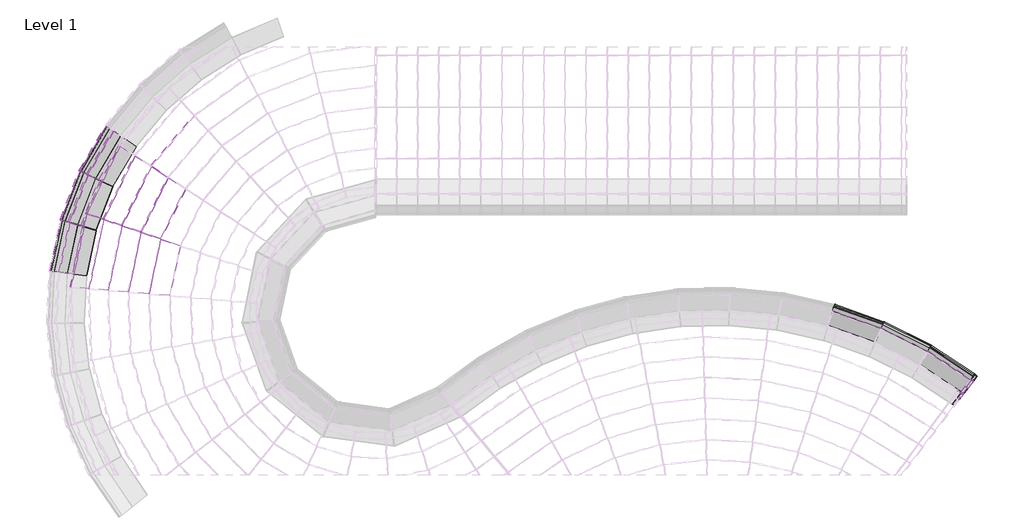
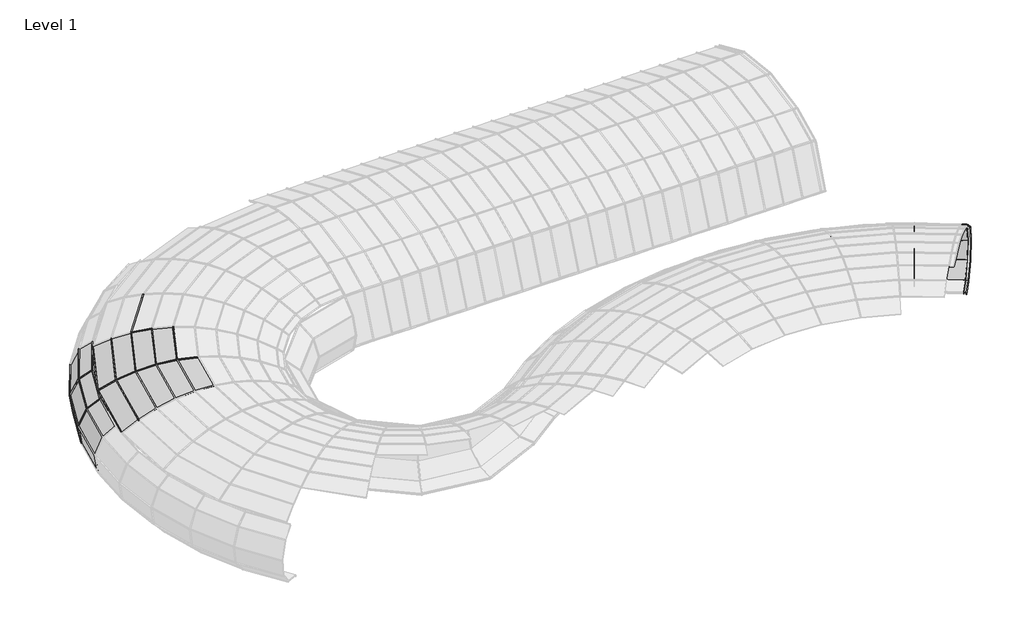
# One storey, part 13 of 23: 68 members, 32 plates.
"""IFC4 building model written with IfcOpenShell, lengths in millimetres."""

from ifc_helpers import new_model, si_unit, origin, place, context, project, spatial, transform, mapped, element, save
from components import member_9f5a8508, member_b171f0c8, member_040a25f9, member_07455e61, member_515abc7c, member_e80ec650, member_68ba998a, member_6834bcaf, member_d79d2994, member_c7dbaffb, member_6c4aaba8, member_0ea93e7c, member_01d9c279, member_12c77cbe, member_af15374c, member_9c203333, member_86c07ba8, member_0e8a41c0, member_f532ae18, member_ff5bcfe9, member_5080b2ef, member_d6b8231b, member_8c9da58c, member_391bee44, member_01ebdf2a, member_e0eebeff, member_95f517b8, member_0cd36c09, member_e4cc2466, member_03fc4885, member_b79de73f, member_10df8ec0, member_13f17b54, system_panel_glazed_dfe8d515, system_panel_glazed_f0cf6c0b, system_panel_glazed_2b57bb89, system_panel_glazed_39caee5c, system_panel_glazed_2fe36e08, system_panel_glazed_8ac96967, system_panel_glazed_5e26bc8e, system_panel_glazed_f7be4813, system_panel_glazed_5b1ce257, system_panel_glazed_7bf4cd1b, system_panel_glazed_a2a57e74, system_panel_glazed_56180ac8, system_panel_glazed_7dd4ad5a, system_panel_glazed_af9ea4cd

model = new_model("IFC4")

# Units and contexts
model_context = context("Model", 3, world=origin())
ifc_project = project(units=[si_unit("LENGTHUNIT", "METRE", prefix="MILLI")], contexts=[model_context])

# Site, building, storey
site = spatial("IfcSite", under=ifc_project)
building = spatial("IfcBuilding", under=site)
storey = spatial("IfcBuildingStorey", under=building, Name="Level 1", Elevation=0.0)

# Members
placement = place(None, origin())
member_shape = member_9f5a8508(model_context)
element("IfcMember", 1, ObjectType="Rectangular Mullion : 1\" Square", at=placement, inside=storey, context=model_context, shape_type="MappedRepresentation", body=[
    mapped(member_shape, transform((7104.8271697, -3677.2258429, 2085.6089632), x_axis=(0.5145511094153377, 0.6881011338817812, -0.5116189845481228), y_axis=(0.3063900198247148, 0.4097305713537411, 0.8592124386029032), z_axis=(0.8008509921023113, -0.5988636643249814, 0.0))),
])
member_2_shape = member_b171f0c8(model_context)
element("IfcMember", 2, ObjectType="Rectangular Mullion : 1\" Square", at=placement, inside=storey, context=model_context, shape_type="MappedRepresentation", body=[
    mapped(member_2_shape, transform((6165.2913851, -2271.3085025, 1116.1918244), x_axis=(0.011808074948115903, 0.023756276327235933, -0.9996480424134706), y_axis=(0.4449428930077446, 0.8951659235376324, 0.026529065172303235), z_axis=(0.8954810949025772, -0.44509954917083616, 0.0))),
])
element("IfcMember", 3, ObjectType="Rectangular Mullion : 1\" Square", at=placement, inside=storey, context=model_context, shape_type="MappedRepresentation", body=[
    mapped(member_2_shape, transform((7440.7683843, -3110.151261, 1116.1918244), x_axis=(0.014599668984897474, 0.02215041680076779, -0.9996480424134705), y_axis=(0.5501336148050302, 0.834655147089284, 0.02652906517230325), z_axis=(0.8349490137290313, -0.5503273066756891, 0.0))),
])
element("IfcMember", 4, ObjectType="Rectangular Mullion : 1\" Square", at=placement, inside=storey, context=model_context, shape_type="MappedRepresentation", body=[
    mapped(member_2_shape, transform((4797.5682661, -1593.1992054, 1116.1918244), x_axis=(0.008842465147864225, 0.025012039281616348, -0.9996480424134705), y_axis=(0.33319504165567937, 0.9424846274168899, 0.02652906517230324), z_axis=(0.9428164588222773, -0.33331235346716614, 0.0))),
])
member_3_shape = member_040a25f9(model_context)
element("IfcMember", 5, ObjectType="Rectangular Mullion : 1\" Square", at=placement, inside=storey, context=model_context, shape_type="MappedRepresentation", body=[
    mapped(member_3_shape, transform((7501.9908279, -3155.3837101, 1116.1918244), x_axis=(0.015953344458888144, 0.021115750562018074, -0.9996497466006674), y_axis=(0.6026032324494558, 0.7976020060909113, 0.026464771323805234), z_axis=(0.7978814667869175, -0.6028143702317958, 0.0))),
])
member_4_shape = member_07455e61(model_context)
element("IfcMember", 6, ObjectType="Rectangular Mullion : 1\" Square", at=placement, inside=storey, context=model_context, shape_type="MappedRepresentation", body=[
    mapped(member_4_shape, transform((4737.0034342, -1736.2291128, 526.7119632), x_axis=(-0.17219439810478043, -0.48707379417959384, -0.8562173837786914), y_axis=(0.28538783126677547, 0.8072558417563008, -0.516615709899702), z_axis=(0.9428164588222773, -0.33331235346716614, 0.0))),
])
element("IfcMember", 7, ObjectType="Rectangular Mullion : 1\" Square", at=placement, inside=storey, context=model_context, shape_type="MappedRepresentation", body=[
    mapped(member_4_shape, transform((6087.8415671, -2405.9457149, 526.7119632), x_axis=(-0.2299454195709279, -0.4626196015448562, -0.8562173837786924), y_axis=(0.38110197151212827, 0.7667264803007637, -0.5166157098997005), z_axis=(0.8954810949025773, -0.44509954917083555, 0.0))),
])
element("IfcMember", 8, ObjectType="Rectangular Mullion : 1\" Square", at=placement, inside=storey, context=model_context, shape_type="MappedRepresentation", body=[
    mapped(member_4_shape, transform((7347.5749593, -3234.4116279, 526.7119632), x_axis=(-0.28430773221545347, -0.43134777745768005, -0.8562173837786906), y_axis=(0.4711998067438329, 0.7148978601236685, -0.5166157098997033), z_axis=(0.8349490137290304, -0.5503273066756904, 0.0))),
])
member_5_shape = member_515abc7c(model_context)
element("IfcMember", 9, ObjectType="Rectangular Mullion : 1\" Square", at=placement, inside=storey, context=model_context, shape_type="MappedRepresentation", body=[
    mapped(member_5_shape, transform((7328.9928638, -3259.1882471, 1696.6281859), x_axis=(0.308871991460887, 0.46861633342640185, -0.8276453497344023), y_axis=(0.45547583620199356, 0.6910416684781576, 0.5612514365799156), z_axis=(0.8349490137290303, -0.5503273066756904, 0.0))),
])
element("IfcMember", 10, ObjectType="Rectangular Mullion : 1\" Square", at=placement, inside=storey, context=model_context, shape_type="MappedRepresentation", body=[
    mapped(member_5_shape, transform((4724.9272444, -1764.7482427, 1696.6281859), x_axis=(0.18707203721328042, 0.5291570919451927, -0.8276453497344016), y_axis=(0.27586441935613, 0.7803176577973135, 0.5612514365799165), z_axis=(0.9428164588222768, -0.33331235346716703, 0.0))),
])
element("IfcMember", 11, ObjectType="Rectangular Mullion : 1\" Square", at=placement, inside=storey, context=model_context, shape_type="MappedRepresentation", body=[
    mapped(member_5_shape, transform((6072.3986331, -2432.7914021, 1696.6281859), x_axis=(0.2498127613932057, 0.5025900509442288, -0.8276453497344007), y_axis=(0.3683845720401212, 0.7411407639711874, 0.5612514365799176), z_axis=(0.895481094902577, -0.44509954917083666, 0.0))),
])
member_6_shape = member_e80ec650(model_context)
element("IfcMember", 12, ObjectType="Rectangular Mullion : 1\" Square", at=placement, inside=storey, context=model_context, shape_type="MappedRepresentation", body=[
    mapped(member_6_shape, transform((7389.1652625, -3303.6273676, 1696.6281859), x_axis=(0.33773694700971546, 0.4470265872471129, -0.8283121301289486), y_axis=(0.4993184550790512, 0.6608948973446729, 0.5602669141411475), z_axis=(0.797881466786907, -0.6028143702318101, 0.0))),
])
member_7_shape = member_68ba998a(model_context)
element("IfcMember", 13, ObjectType="Rectangular Mullion : 1\" Square", at=placement, inside=storey, context=model_context, shape_type="MappedRepresentation", body=[
    mapped(member_7_shape, transform((7407.9219225, -3278.9826351, 526.7119632), x_axis=(-0.3108447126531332, -0.4114321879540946, -0.8567958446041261), y_axis=(0.5164888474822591, 0.6836215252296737, -0.5156557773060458), z_axis=(0.7978814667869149, -0.6028143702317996, 0.0))),
])
member_8_shape = member_6834bcaf(model_context)
element("IfcMember", 14, ObjectType="Rectangular Mullion : 1\" Square", at=placement, inside=storey, context=model_context, shape_type="MappedRepresentation", body=[
    mapped(member_8_shape, transform((7078.7002213, -3592.9183956, 113.4427618), x_axis=(-0.4932424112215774, -0.7483405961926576, -0.44350679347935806), y_axis=(0.24407389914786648, 0.370305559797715, -0.8962710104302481), z_axis=(0.834949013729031, -0.5503273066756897, 0.0))),
])
member_9_shape = member_d79d2994(model_context)
element("IfcMember", 15, ObjectType="Rectangular Mullion : 1\" Square", at=placement, inside=storey, context=model_context, shape_type="MappedRepresentation", body=[
    mapped(member_9_shape, transform((7136.5213134, -3635.5810601, 113.4427618), x_axis=(-0.5399407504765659, -0.714662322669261, -0.4446591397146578), y_axis=(0.268046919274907, 0.3547852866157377, -0.8956998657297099), z_axis=(0.7978814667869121, -0.6028143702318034, 0.0))),
])
member_10_shape = member_c7dbaffb(model_context)
element("IfcMember", 16, ObjectType="Rectangular Mullion : 1\" Square", at=placement, inside=storey, context=model_context, shape_type="MappedRepresentation", body=[
    mapped(member_10_shape, transform((7068.1127197, -3649.3300557, 2085.6089632), x_axis=(-0.4641419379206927, -0.61433547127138, 0.6380941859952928), y_axis=(0.38465234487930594, 0.5091235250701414, 0.7699583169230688), z_axis=(-0.7978814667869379, 0.6028143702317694, 0.0))),
])
member_11_shape = member_6c4aaba8(model_context)
element("IfcMember", 17, ObjectType="Rectangular Mullion : 1\" Square", at=placement, inside=storey, context=model_context, shape_type="MappedRepresentation", body=[
    mapped(member_11_shape, transform((-17803.0523861, 1396.6710383, 2378.3537392), x_axis=(0.8127024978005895, -0.3994620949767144, 0.4241988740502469), y_axis=(-0.38069706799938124, 0.1871214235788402, 0.9055690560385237), z_axis=(-0.4411172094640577, -0.897449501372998, 0.0))),
])
member_12_shape = member_0ea93e7c(model_context)
element("IfcMember", 18, ObjectType="Rectangular Mullion : 1\" Square", at=placement, inside=storey, context=model_context, shape_type="MappedRepresentation", body=[
    mapped(member_12_shape, transform((-16711.9803938, 1019.204499, 2763.3769688), x_axis=(0.8794198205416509, -0.43225520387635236, 0.19943976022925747), y_axis=(-0.17898711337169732, 0.0879763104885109, 0.9799100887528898), z_axis=(-0.44111720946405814, -0.8974495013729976, 0.0))),
])
member_13_shape = member_01d9c279(model_context)
element("IfcMember", 19, ObjectType="Rectangular Mullion : 1\" Square", at=placement, inside=storey, context=model_context, shape_type="MappedRepresentation", body=[
    mapped(member_13_shape, transform((-16141.7523354, 821.9287799, 2850.17796), x_axis=(0.8944127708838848, -0.43962458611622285, 0.08219500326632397), y_axis=(-0.0737658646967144, 0.03625763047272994, 0.9966162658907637), z_axis=(-0.44111720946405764, -0.897449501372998, 0.0))),
])
member_14_shape = member_12c77cbe(model_context)
element("IfcMember", 20, ObjectType="Rectangular Mullion : 1\" Square", at=placement, inside=storey, context=model_context, shape_type="MappedRepresentation", body=[
    mapped(member_14_shape, transform((-16417.3913243, 2935.9848812, 2605.3528615), x_axis=(0.7234762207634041, -0.6148230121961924, 0.31396627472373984), y_axis=(-0.23924475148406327, 0.2033144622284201, 0.9494341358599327), z_axis=(-0.6475678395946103, -0.7620078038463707, 0.0))),
])
element("IfcMember", 21, ObjectType="Rectangular Mullion : 1\" Square", at=placement, inside=storey, context=model_context, shape_type="MappedRepresentation", body=[
    mapped(member_14_shape, transform((-17268.3856096, 1211.6980766, 2605.3528615), x_axis=(0.852069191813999, -0.4188117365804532, 0.31396627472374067), y_axis=(-0.2817688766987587, 0.13849592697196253, 0.9494341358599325), z_axis=(-0.44111720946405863, -0.8974495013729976, 0.0))),
])
member_15_shape = member_af15374c(model_context)
element("IfcMember", 22, ObjectType="Rectangular Mullion : 1\" Square", at=placement, inside=storey, context=model_context, shape_type="MappedRepresentation", body=[
    mapped(member_15_shape, transform((-17351.3458913, 3518.5588606, 2085.6089632), x_axis=(-0.785792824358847, 0.3862353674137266, -0.4830650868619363), y_axis=(-0.43352652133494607, 0.2130883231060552, 0.8755844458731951), z_axis=(0.4411172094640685, 0.8974495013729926, 0.0))),
])
element("IfcMember", 23, ObjectType="Rectangular Mullion : 1\" Square", at=placement, inside=storey, context=model_context, shape_type="MappedRepresentation", body=[
    mapped(member_15_shape, transform((-18316.6152941, 1547.6714435, 2085.6089632), x_axis=(-0.8564765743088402, 0.18192305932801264, -0.4830650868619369), y_axis=(-0.47252316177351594, 0.10036802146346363, 0.8755844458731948), z_axis=(0.20777328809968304, 0.9781770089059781, 0.0))),
])
member_16_shape = member_9c203333(model_context)
element("IfcMember", 24, ObjectType="Rectangular Mullion : 1\" Square", at=placement, inside=storey, context=model_context, shape_type="MappedRepresentation", body=[
    mapped(member_16_shape, transform((-17536.0072528, 2316.0728219, 0.0), x_axis=(0.8949800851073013, -0.3463778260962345, -0.2811281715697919), y_axis=(-0.26217768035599, 0.10146877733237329, -0.9596702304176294), z_axis=(0.36093422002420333, 0.9325912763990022, 0.0))),
])
element("IfcMember", 25, ObjectType="Rectangular Mullion : 1\" Square", at=placement, inside=storey, context=model_context, shape_type="MappedRepresentation", body=[
    mapped(member_16_shape, transform((-18022.6145046, 1053.1513631, 0.0), x_axis=(0.938773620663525, -0.1991759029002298, -0.28112817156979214), y_axis=(-0.2750066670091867, 0.058347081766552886, -0.9596702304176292), z_axis=(0.20754619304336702, 0.9782252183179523, 0.0))),
])
member_17_shape = member_86c07ba8(model_context)
element("IfcMember", 26, ObjectType="Rectangular Mullion : 1\" Square", at=placement, inside=storey, context=model_context, shape_type="MappedRepresentation", body=[
    mapped(member_17_shape, transform((-18052.0771876, 2593.0721676, 170.8694653), x_axis=(-0.7284687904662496, 0.42630674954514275, 0.5362795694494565), y_axis=(-0.46284860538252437, 0.270863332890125, -0.8440404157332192), z_axis=(-0.5050785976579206, -0.8630733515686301, 0.0))),
])
element("IfcMember", 27, ObjectType="Rectangular Mullion : 1\" Square", at=placement, inside=storey, context=model_context, shape_type="MappedRepresentation", body=[
    mapped(member_17_shape, transform((-18576.2627857, 1244.2806281, 170.8694653), x_axis=(-0.7871447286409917, 0.30464306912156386, 0.5362795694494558), y_axis=(-0.5001296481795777, 0.19356164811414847, -0.8440404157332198), z_axis=(-0.36093422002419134, -0.9325912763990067, 0.0))),
])
member_18_shape = member_0e8a41c0(model_context)
element("IfcMember", 28, ObjectType="Rectangular Mullion : 1\" Square", at=placement, inside=storey, context=model_context, shape_type="MappedRepresentation", body=[
    mapped(member_18_shape, transform((-18413.5052303, 2767.3816198, 629.7792003), x_axis=(-0.36445706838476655, 0.2132836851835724, 0.9064662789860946), y_axis=(-0.7823468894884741, 0.45783671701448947, -0.42227820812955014), z_axis=(-0.5050785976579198, -0.8630733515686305, 0.0))),
])
element("IfcMember", 29, ObjectType="Rectangular Mullion : 1\" Square", at=placement, inside=storey, context=model_context, shape_type="MappedRepresentation", body=[
    mapped(member_18_shape, transform((-18960.8683823, 1358.7033102, 629.7792003), x_axis=(-0.3938129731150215, 0.1524146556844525, 0.9064662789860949), y_axis=(-0.8453625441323, 0.32717469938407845, -0.4222782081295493), z_axis=(-0.36093422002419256, -0.9325912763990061, 0.0))),
])
member_19_shape = member_f532ae18(model_context)
element("IfcMember", 30, ObjectType="Rectangular Mullion : 1\" Square", at=placement, inside=storey, context=model_context, shape_type="MappedRepresentation", body=[
    mapped(member_19_shape, transform((-18495.708055, 2807.0263835, 1232.5089476), x_axis=(0.11561769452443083, -0.06766055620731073, 0.9909866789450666), y_axis=(-0.8552941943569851, 0.5005261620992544, 0.13396044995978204), z_axis=(-0.5050785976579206, -0.8630733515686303, 0.0))),
])
element("IfcMember", 31, ObjectType="Rectangular Mullion : 1\" Square", at=placement, inside=storey, context=model_context, shape_type="MappedRepresentation", body=[
    mapped(member_19_shape, transform((-19048.3426862, 1384.7274881, 1232.5089476), x_axis=(0.12493034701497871, -0.04835091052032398, 0.9909866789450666), y_axis=(-0.9241855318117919, 0.3576810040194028, 0.13396044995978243), z_axis=(-0.3609342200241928, -0.9325912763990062, 0.0))),
])
member_20_shape = member_ff5bcfe9(model_context)
element("IfcMember", 32, ObjectType="Rectangular Mullion : 1\" Square", at=placement, inside=storey, context=model_context, shape_type="MappedRepresentation", body=[
    mapped(member_20_shape, transform((-18272.8520137, 2699.5474115, 1789.6405438), x_axis=(0.5587528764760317, -0.3269874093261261, 0.7621512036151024), y_axis=(-0.657792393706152, 0.38494626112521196, 0.6473990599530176), z_axis=(-0.5050785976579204, -0.8630733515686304, 0.0))),
])
element("IfcMember", 33, ObjectType="Rectangular Mullion : 1\" Square", at=placement, inside=storey, context=model_context, shape_type="MappedRepresentation", body=[
    mapped(member_20_shape, transform((-18811.1953965, 1314.1746174, 1789.6405438), x_axis=(0.6037587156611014, -0.23366847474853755, 0.7621512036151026), y_axis=(-0.7107755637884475, 0.2750864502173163, 0.6473990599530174), z_axis=(-0.3609342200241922, -0.9325912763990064, 0.0))),
])
member_21_shape = member_5080b2ef(model_context)
element("IfcMember", 34, ObjectType="Rectangular Mullion : 1\" Square", at=placement, inside=storey, context=model_context, shape_type="MappedRepresentation", body=[
    mapped(member_21_shape, transform((-17913.5543169, 2526.2653821, 2085.6089632), x_axis=(0.6923325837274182, -0.4051595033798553, 0.5970941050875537), y_axis=(-0.5153360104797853, 0.3015794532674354, 0.802171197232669), z_axis=(-0.5050785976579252, -0.8630733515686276, 0.0))),
])
element("IfcMember", 35, ObjectType="Rectangular Mullion : 1\" Square", at=placement, inside=storey, context=model_context, shape_type="MappedRepresentation", body=[
    mapped(member_21_shape, transform((-18428.85676, 1200.4263707, 2085.6089632), x_axis=(0.7480978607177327, -0.2895310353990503, 0.597094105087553), y_axis=(-0.5568447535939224, 0.2155116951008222, 0.8021711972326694), z_axis=(-0.36093422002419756, -0.9325912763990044, 0.0))),
])
member_22_shape = member_d6b8231b(model_context)
element("IfcMember", 36, ObjectType="Rectangular Mullion : 1\" Square", at=placement, inside=storey, context=model_context, shape_type="MappedRepresentation", body=[
    mapped(member_22_shape, transform((-18019.9786679, 1065.5748234, 0.0), x_axis=(-0.2851545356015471, -0.9584815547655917, 0.0), y_axis=(-0.26866015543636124, 0.07992815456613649, -0.9599131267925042), z_axis=(0.9200590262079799, -0.27372358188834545, -0.2802976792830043))),
])
element("IfcMember", 37, ObjectType="Rectangular Mullion : 1\" Square", at=placement, inside=storey, context=model_context, shape_type="MappedRepresentation", body=[
    mapped(member_22_shape, transform((-17531.4233882, 2327.9167311, 0.0), x_axis=(-0.4343992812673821, -0.9007204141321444, 0.0), y_axis=(-0.25246984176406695, 0.12176111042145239, -0.9599131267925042), z_axis=(0.864613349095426, -0.4169855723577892, -0.2802976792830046))),
])
member_23_shape = member_8c9da58c(model_context)
element("IfcMember", 38, ObjectType="Rectangular Mullion : 1\" Square", at=placement, inside=storey, context=model_context, shape_type="MappedRepresentation", body=[
    mapped(member_23_shape, transform((-18058.4916858, 2582.1111361, 170.8694653), x_axis=(-0.43439928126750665, -0.9007204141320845, 0.0), y_axis=(-0.6780665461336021, 0.3270178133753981, -0.6582439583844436), z_axis=(0.5928937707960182, -0.2859407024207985, -0.7528046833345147))),
])
element("IfcMember", 39, ObjectType="Rectangular Mullion : 1\" Square", at=placement, inside=storey, context=model_context, shape_type="MappedRepresentation", body=[
    mapped(member_23_shape, transform((-18419.9197285, 2756.4205883, 629.7792003), x_axis=(-0.434399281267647, -0.9007204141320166, 0.0), y_axis=(-0.8905692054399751, 0.42950355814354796, -0.14971033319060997), z_axis=(0.13484715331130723, -0.06503406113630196, -0.9887299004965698))),
])
element("IfcMember", 40, ObjectType="Rectangular Mullion : 1\" Square", at=placement, inside=storey, context=model_context, shape_type="MappedRepresentation", body=[
    mapped(member_23_shape, transform((-18580.8466503, 1232.4367189, 170.8694653), x_axis=(-0.2851545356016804, -0.9584815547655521, 0.0), y_axis=(-0.7215494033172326, 0.21466566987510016, -0.6582439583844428), z_axis=(0.6309146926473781, -0.18770125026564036, -0.7528046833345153))),
])
element("IfcMember", 41, ObjectType="Rectangular Mullion : 1\" Square", at=placement, inside=storey, context=model_context, shape_type="MappedRepresentation", body=[
    mapped(member_23_shape, transform((-18965.4522469, 1346.859401, 629.7792003), x_axis=(-0.2851545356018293, -0.9584815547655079, 0.0), y_axis=(-0.9476793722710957, 0.28194081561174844, -0.14971033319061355), z_axis=(0.14349459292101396, -0.04269058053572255, -0.9887299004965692))),
])
member_24_shape = member_391bee44(model_context)
element("IfcMember", 42, ObjectType="Rectangular Mullion : 1\" Square", at=placement, inside=storey, context=model_context, shape_type="MappedRepresentation", body=[
    mapped(member_24_shape, transform((-18502.1225531, 2796.0653519, 1232.5089476), x_axis=(-0.43439928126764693, -0.9007204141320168, 0.0), y_axis=(-0.8231952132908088, 0.39701044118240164, 0.40587233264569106), z_axis=(-0.3655774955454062, 0.1763106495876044, -0.9139297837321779))),
])
element("IfcMember", 43, ObjectType="Rectangular Mullion : 1\" Square", at=placement, inside=storey, context=model_context, shape_type="MappedRepresentation", body=[
    mapped(member_24_shape, transform((-19052.9265508, 1372.8835789, 1232.5089476), x_axis=(-0.2851545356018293, -0.9584815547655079, 0.0), y_axis=(-0.8759848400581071, 0.26061122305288, 0.40587233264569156), z_axis=(-0.3890211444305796, 0.11573633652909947, -0.9139297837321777))),
])
member_25_shape = member_01ebdf2a(model_context)
element("IfcMember", 44, ObjectType="Rectangular Mullion : 1\" Square", at=placement, inside=storey, context=model_context, shape_type="MappedRepresentation", body=[
    mapped(member_25_shape, transform((-18279.2665119, 2688.5863799, 1789.6405438), x_axis=(-0.4343992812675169, -0.9007204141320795, 0.0), y_axis=(-0.5367032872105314, 0.258841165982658, 0.8030883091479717), z_axis=(-0.7233580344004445, 0.3488609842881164, -0.5958600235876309))),
])
element("IfcMember", 45, ObjectType="Rectangular Mullion : 1\" Square", at=placement, inside=storey, context=model_context, shape_type="MappedRepresentation", body=[
    mapped(member_25_shape, transform((-18815.7792611, 1302.3307082, 1789.6405438), x_axis=(-0.28515453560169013, -0.9584815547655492, 0.0), y_axis=(-0.5711208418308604, 0.16991218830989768, 0.8030883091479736), z_axis=(-0.76974533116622, 0.2290042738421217, -0.5958600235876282))),
])
member_26_shape = member_e0eebeff(model_context)
element("IfcMember", 46, ObjectType="Rectangular Mullion : 1\" Square", at=placement, inside=storey, context=model_context, shape_type="MappedRepresentation", body=[
    mapped(member_26_shape, transform((7000.0174565, -3856.875692, 2208.6526723), x_axis=(0.7970831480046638, -0.6038580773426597, 0.0037252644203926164), y_axis=(0.3063900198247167, 0.4097305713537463, 0.8592124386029), z_axis=(-0.5203687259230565, -0.683722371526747, 0.5116054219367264))),
])
member_27_shape = member_95f517b8(model_context)
element("IfcMember", 47, ObjectType="Rectangular Mullion : 1\" Square", at=placement, inside=storey, context=model_context, shape_type="MappedRepresentation", body=[
    mapped(member_27_shape, transform((7125.1687849, -3692.43698, 2085.6089632), x_axis=(0.7966162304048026, -0.6044828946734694, 0.0017353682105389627), y_axis=(0.384652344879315, 0.5091235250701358, 0.7699583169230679), z_axis=(-0.46631014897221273, -0.6126937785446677, 0.6380918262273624))),
])
member_28_shape = member_0cd36c09(model_context)
element("IfcMember", 48, ObjectType="Rectangular Mullion : 1\" Square", at=placement, inside=storey, context=model_context, shape_type="MappedRepresentation", body=[
    mapped(member_28_shape, transform((-16425.6154359, 2926.3073821, 2605.3528615), x_axis=(-0.5485388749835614, -0.83612505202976, 0.0), y_axis=(-0.2167452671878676, 0.14219548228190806, 0.965816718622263), z_axis=(-0.8075435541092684, 0.5297880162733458, -0.2592258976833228))),
])
element("IfcMember", 49, ObjectType="Rectangular Mullion : 1\" Square", at=placement, inside=storey, context=model_context, shape_type="MappedRepresentation", body=[
    mapped(member_28_shape, transform((-17808.6545746, 1385.2734297, 2378.3537392), x_axis=(-0.32694640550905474, -0.9450428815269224, 0.0), y_axis=(-0.35190929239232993, 0.12174630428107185, 0.9280828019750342), z_axis=(-0.8770780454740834, 0.3034333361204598, -0.37237388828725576))),
])
element("IfcMember", 50, ObjectType="Rectangular Mullion : 1\" Square", at=placement, inside=storey, context=model_context, shape_type="MappedRepresentation", body=[
    mapped(member_28_shape, transform((-17273.9877981, 1200.300468, 2605.3528615), x_axis=(-0.32694640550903, -0.9450428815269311, 0.0), y_axis=(-0.2449795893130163, 0.08475297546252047, 0.9658167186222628), z_axis=(-0.9127382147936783, 0.31577030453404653, -0.2592258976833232))),
])
element("IfcMember", 51, ObjectType="Rectangular Mullion : 1\" Square", at=placement, inside=storey, context=model_context, shape_type="MappedRepresentation", body=[
    mapped(member_28_shape, transform((-16717.5825824, 1007.8068903, 2763.3769688), x_axis=(-0.32694640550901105, -0.9450428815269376, 0.0), y_axis=(-0.13456472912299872, 0.046553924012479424, 0.9898106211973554), z_axis=(-0.9354134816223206, 0.3236150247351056, -0.1423900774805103))),
])
element("IfcMember", 52, ObjectType="Rectangular Mullion : 1\" Square", at=placement, inside=storey, context=model_context, shape_type="MappedRepresentation", body=[
    mapped(member_28_shape, transform((-16147.354524, 810.5311712, 2850.17796), x_axis=(-0.32694640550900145, -0.9450428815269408, 0.0), y_axis=(-0.02223550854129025, 0.007692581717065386, 0.9997231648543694), z_axis=(-0.9447812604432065, 0.3268558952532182, -0.023528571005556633))),
])
member_29_shape = member_e4cc2466(model_context)
element("IfcMember", 53, ObjectType="Rectangular Mullion : 1\" Square", at=placement, inside=storey, context=model_context, shape_type="MappedRepresentation", body=[
    mapped(member_29_shape, transform((-18313.9765733, 1560.0942916, 2085.6089632), x_axis=(-0.32694640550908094, -0.9450428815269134, 0.0), y_axis=(-0.45383262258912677, 0.15700763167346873, 0.8771456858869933), z_axis=(-0.8289402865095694, 0.286779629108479, -0.4802243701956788))),
])
element("IfcMember", 54, ObjectType="Rectangular Mullion : 1\" Square", at=placement, inside=storey, context=model_context, shape_type="MappedRepresentation", body=[
    mapped(member_23_shape, transform((4736.9010134, -1768.9813096, 1696.6281859), x_axis=(0.9208466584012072, -0.3899249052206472, 0.0), y_axis=(0.37127065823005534, 0.8767927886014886, 0.3056018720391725), z_axis=(-0.11916178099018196, -0.28141246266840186, 0.9521593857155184))),
])
element("IfcMember", 55, ObjectType="Rectangular Mullion : 1\" Square", at=placement, inside=storey, context=model_context, shape_type="MappedRepresentation", body=[
    mapped(member_23_shape, transform((4809.5420351, -1597.4322723, 1116.1918244), x_axis=(0.9208466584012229, -0.3899249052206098, 0.0), y_axis=(0.377055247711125, 0.8904536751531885, -0.2547971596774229), z_axis=(0.09935175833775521, 0.23462911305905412, 0.9669945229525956))),
])
element("IfcMember", 56, ObjectType="Rectangular Mullion : 1\" Square", at=placement, inside=storey, context=model_context, shape_type="MappedRepresentation", body=[
    mapped(member_23_shape, transform((6083.771243, -2438.4441663, 1696.6281859), x_axis=(0.8668133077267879, -0.49863282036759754, 0.0), y_axis=(0.47477791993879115, 0.8253444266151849, 0.3056018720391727), z_axis=(-0.15238312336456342, -0.2648997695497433, 0.9521593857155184))),
])
element("IfcMember", 57, ObjectType="Rectangular Mullion : 1\" Square", at=placement, inside=storey, context=model_context, shape_type="MappedRepresentation", body=[
    mapped(member_23_shape, transform((6176.663995, -2276.9612668, 1116.1918244), x_axis=(0.8668133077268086, -0.4986328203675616, 0.0), y_axis=(0.4821752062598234, 0.8382037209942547, -0.2547971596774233), z_axis=(0.12705022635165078, 0.22086156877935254, 0.9669945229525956))),
])
element("IfcMember", 58, ObjectType="Rectangular Mullion : 1\" Square", at=placement, inside=storey, context=model_context, shape_type="MappedRepresentation", body=[
    mapped(member_23_shape, transform((7339.5967163, -3266.1774039, 1696.6281859), x_axis=(0.8000057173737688, -0.5999923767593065, 0.0), y_axis=(0.5712883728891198, 0.761732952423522, 0.30560187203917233), z_axis=(-0.1833587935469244, -0.2444832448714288, 0.9521593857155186))),
])
element("IfcMember", 59, ObjectType="Rectangular Mullion : 1\" Square", at=placement, inside=storey, context=model_context, shape_type="MappedRepresentation", body=[
    mapped(member_23_shape, transform((7451.3722368, -3117.1404178, 1116.1918244), x_axis=(0.8000057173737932, -0.599992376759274, 0.0), y_axis=(0.5801893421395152, 0.7736011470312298, -0.25479715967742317), z_axis=(0.15287635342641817, 0.2038391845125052, 0.9669945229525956))),
])
element("IfcMember", 60, ObjectType="Rectangular Mullion : 1\" Square", at=placement, inside=storey, context=model_context, shape_type="MappedRepresentation", body=[
    mapped(member_24_shape, transform((4748.9772033, -1740.4621796, 526.7119632), x_axis=(0.9208466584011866, -0.38992490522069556, 0.0), y_axis=(0.26434375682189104, 0.6242742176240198, -0.7351218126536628), z_axis=(0.28664230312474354, 0.676934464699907, 0.6779350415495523))),
])
element("IfcMember", 61, ObjectType="Rectangular Mullion : 1\" Square", at=placement, inside=storey, context=model_context, shape_type="MappedRepresentation", body=[
    mapped(member_24_shape, transform((6099.214177, -2411.5984791, 526.7119632), x_axis=(0.8668133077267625, -0.49863282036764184, 0.0), y_axis=(0.33804066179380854, 0.587643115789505, -0.7351218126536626), z_axis=(0.3665558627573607, 0.6372133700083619, 0.6779350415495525))),
])
element("IfcMember", 62, ObjectType="Rectangular Mullion : 1\" Square", at=placement, inside=storey, context=model_context, shape_type="MappedRepresentation", body=[
    mapped(member_24_shape, transform((7358.1788118, -3241.4007847, 526.7119632), x_axis=(0.8000057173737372, -0.5999923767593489, 0.0), y_axis=(0.4067558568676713, 0.5423519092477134, -0.7351218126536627), z_axis=(0.44106748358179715, 0.5881016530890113, 0.6779350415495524))),
])
element("IfcMember", 63, ObjectType="Rectangular Mullion : 1\" Square", at=placement, inside=storey, context=model_context, shape_type="MappedRepresentation", body=[
    mapped(member_25_shape, transform((7089.3040738, -3599.9075524, 113.4427618), x_axis=(0.800005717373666, -0.5999923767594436, 0.0), y_axis=(0.13703181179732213, 0.18271270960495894, -0.9735698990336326), z_axis=(0.5841345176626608, 0.7788614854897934, 0.2283892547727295))),
])
element("IfcMember", 64, ObjectType="Rectangular Mullion : 1\" Square", at=placement, inside=storey, context=model_context, shape_type="MappedRepresentation", body=[
    mapped(member_22_shape, transform((7057.9796251, -3641.6743132, 2085.6089632), x_axis=(0.8000057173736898, -0.5999923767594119, 0.0), y_axis=(0.38285023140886, 0.5104771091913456, 0.7699602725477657), z_axis=(-0.4619702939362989, -0.6159726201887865, 0.6380918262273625))),
])
member_30_shape = member_03fc4885(model_context)
element("IfcMember", 65, ObjectType="Rectangular Mullion : 1\" Square", at=placement, inside=storey, context=model_context, shape_type="MappedRepresentation", body=[
    mapped(member_30_shape, transform((7409.4314517, -3318.9388526, 1696.6281859), x_axis=(0.7976821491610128, -0.603077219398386, 0.0010277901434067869), y_axis=(0.5739756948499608, 0.7597107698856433, 0.3056001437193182), z_axis=(-0.185081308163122, -0.24318185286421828, 0.9521593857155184))),
])
member_31_shape = member_b79de73f(model_context)
element("IfcMember", 66, ObjectType="Rectangular Mullion : 1\" Square", at=placement, inside=storey, context=model_context, shape_type="MappedRepresentation", body=[
    mapped(member_31_shape, transform((7522.2570172, -3170.6951951, 1116.1918244), x_axis=(0.797742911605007, -0.6029970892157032, -0.0008702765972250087), y_axis=(0.5829184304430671, 0.7715473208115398, -0.25479567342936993), z_axis=(0.1543125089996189, 0.20275414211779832, 0.9669945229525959))),
])
member_32_shape = member_10df8ec0(model_context)
element("IfcMember", 67, ObjectType="Rectangular Mullion : 1\" Square", at=placement, inside=storey, context=model_context, shape_type="MappedRepresentation", body=[
    mapped(member_32_shape, transform((7428.1881117, -3294.2941201, 526.7119632), x_axis=(0.7967281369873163, -0.6043353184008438, -0.0017603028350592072), y_axis=(0.40867036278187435, 0.5409136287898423, -0.7351197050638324), z_axis=(0.4452109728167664, 0.584971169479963, 0.6779350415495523))),
])
member_33_shape = member_13f17b54(model_context)
element("IfcMember", 68, ObjectType="Rectangular Mullion : 1\" Square", at=placement, inside=storey, context=model_context, shape_type="MappedRepresentation", body=[
    mapped(member_33_shape, transform((7156.7875027, -3650.8925451, 113.4427618), x_axis=(0.7958585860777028, -0.6054820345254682, -0.0007853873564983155), y_axis=(0.13767713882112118, 0.18222863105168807, -0.9735695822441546), z_axis=(0.5896220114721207, 0.7747155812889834, 0.22838925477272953))),
])

# Plates
system_panel_glazed_shape = system_panel_glazed_dfe8d515(model_context)
element("IfcPlate", 69, ObjectType="System Panel : Glazed", at=placement, inside=storey, context=model_context, shape_type="MappedRepresentation", body=[
    mapped(system_panel_glazed_shape, transform((-17210.6278394, 2924.350068, 7.1406556), x_axis=(-0.5050785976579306, -0.8630733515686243, 0.0), y_axis=(0.24263423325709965, -0.14199182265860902, 0.9596702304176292), z_axis=(-0.8282658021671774, 0.48470889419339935, 0.28112817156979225))),
])
element("IfcPlate", 70, ObjectType="System Panel : Glazed", at=placement, inside=storey, context=model_context, shape_type="MappedRepresentation", body=[
    mapped(system_panel_glazed_shape, transform((-17798.4335222, 1705.543774, 7.1406556), x_axis=(-0.3609342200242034, -0.9325912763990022, 0.0), y_axis=(0.2621776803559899, -0.10146877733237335, 0.9596702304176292), z_axis=(-0.8949800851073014, 0.3463778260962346, 0.2811281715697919))),
])
element("IfcPlate", 71, ObjectType="System Panel : Glazed", at=placement, inside=storey, context=model_context, shape_type="MappedRepresentation", body=[
    mapped(system_panel_glazed_shape, transform((-18184.2892631, 408.5782193, 7.1406556), x_axis=(-0.2075461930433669, -0.9782252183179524, 0.0), y_axis=(0.2750066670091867, -0.058347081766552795, 0.9596702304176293), z_axis=(-0.9387736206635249, 0.19917590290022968, 0.28112817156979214))),
])
system_panel_glazed_2_shape = system_panel_glazed_f0cf6c0b(model_context)
element("IfcPlate", 72, ObjectType="System Panel : Glazed", at=placement, inside=storey, context=model_context, shape_type="MappedRepresentation", body=[
    mapped(system_panel_glazed_2_shape, transform((-17700.2110379, 3210.8587348, 180.4433737), x_axis=(-0.5050785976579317, -0.8630733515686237, 0.0), y_axis=(0.6506287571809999, -0.38075403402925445, 0.6570453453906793), z_axis=(-0.5670783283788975, 0.33185954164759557, 0.7538510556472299))),
])
element("IfcPlate", 73, ObjectType="System Panel : Glazed", at=placement, inside=storey, context=model_context, shape_type="MappedRepresentation", body=[
    mapped(system_panel_glazed_2_shape, transform((-18327.4511535, 1910.2857344, 180.4433737), x_axis=(-0.3609342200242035, -0.9325912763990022, 0.0), y_axis=(0.7030349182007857, -0.2720906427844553, 0.6570453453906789), z_axis=(-0.6127547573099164, 0.23715014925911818, 0.7538510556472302))),
])
element("IfcPlate", 74, ObjectType="System Panel : Glazed", at=placement, inside=storey, context=model_context, shape_type="MappedRepresentation", body=[
    mapped(system_panel_glazed_2_shape, transform((-18739.1930038, 526.3099612, 180.4433737), x_axis=(-0.2075461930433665, -0.9782252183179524, 0.0), y_axis=(0.7374361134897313, -0.15645891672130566, 0.6570453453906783), z_axis=(-0.6427383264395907, 0.13636726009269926, 0.7538510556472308))),
])
system_panel_glazed_3_shape = system_panel_glazed_2b57bb89(model_context)
element("IfcPlate", 75, ObjectType="System Panel : Glazed", at=placement, inside=storey, context=model_context, shape_type="MappedRepresentation", body=[
    mapped(system_panel_glazed_3_shape, transform((-18039.8560961, 3409.6221995, 642.3369711), x_axis=(-0.5050785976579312, -0.8630733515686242, 0.0), y_axis=(0.8534076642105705, -0.4994221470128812, 0.14924100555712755), z_axis=(-0.12880593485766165, 0.07537843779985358, 0.9888008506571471))),
])
element("IfcPlate", 76, ObjectType="System Panel : Glazed", at=placement, inside=storey, context=model_context, shape_type="MappedRepresentation", body=[
    mapped(system_panel_glazed_3_shape, transform((-18694.4535846, 2052.3240952, 642.3369711), x_axis=(-0.3609342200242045, -0.9325912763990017, 0.0), y_axis=(0.922147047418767, -0.35689206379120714, 0.14924100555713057), z_axis=(-0.13918085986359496, 0.05386618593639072, 0.9888008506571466))),
])
element("IfcPlate", 77, ObjectType="System Panel : Glazed", at=placement, inside=storey, context=model_context, shape_type="MappedRepresentation", body=[
    mapped(system_panel_glazed_3_shape, transform((-19124.1537497, 607.9855669, 642.3369711), x_axis=(-0.2075461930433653, -0.9782252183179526, 0.0), y_axis=(0.9672699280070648, -0.205221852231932, 0.1492410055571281), z_axis=(-0.1459913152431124, 0.030974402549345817, 0.9888008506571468))),
])
system_panel_glazed_4_shape = system_panel_glazed_39caee5c(model_context)
element("IfcPlate", 78, ObjectType="System Panel : Glazed", at=placement, inside=storey, context=model_context, shape_type="MappedRepresentation", body=[
    mapped(system_panel_glazed_4_shape, transform((-18112.2978693, 3452.0158028, 1244.1219817), x_axis=(-0.5050785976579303, -0.8630733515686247, 0.0), y_axis=(0.7892047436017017, -0.4618499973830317, -0.40478445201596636), z_axis=(0.34935867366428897, -0.20444796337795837, 0.914412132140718))),
])
element("IfcPlate", 79, ObjectType="System Panel : Glazed", at=placement, inside=storey, context=model_context, shape_type="MappedRepresentation", body=[
    mapped(system_panel_glazed_4_shape, transform((-18772.7303217, 2082.6189883, 1244.1219817), x_axis=(-0.3609342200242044, -0.9325912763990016, 0.0), y_axis=(0.8527727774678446, -0.3300426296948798, -0.4047844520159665), z_axis=(0.37749844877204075, -0.14610056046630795, 0.9144121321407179))),
])
element("IfcPlate", 80, ObjectType="System Panel : Glazed", at=placement, inside=storey, context=model_context, shape_type="MappedRepresentation", body=[
    mapped(system_panel_glazed_4_shape, transform((-19206.2607564, 625.4058873, 1244.1219817), x_axis=(-0.20754619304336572, -0.9782252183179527, 0.0), y_axis=(0.8945010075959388, -0.1897827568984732, -0.40478445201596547), z_axis=(0.39597035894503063, -0.08401147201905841, 0.9144121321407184))),
])
system_panel_glazed_5_shape = system_panel_glazed_2fe36e08(model_context)
element("IfcPlate", 81, ObjectType="System Panel : Glazed", at=placement, inside=storey, context=model_context, shape_type="MappedRepresentation", body=[
    mapped(system_panel_glazed_5_shape, transform((-17895.0853934, 3324.9010303, 1797.2236389), x_axis=(-0.5050785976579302, -0.8630733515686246, 0.0), y_axis=(0.5153360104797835, -0.30157945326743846, -0.802171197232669), z_axis=(0.6923325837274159, -0.40515950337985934, 0.5970941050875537))),
])
element("IfcPlate", 82, ObjectType="System Panel : Glazed", at=placement, inside=storey, context=model_context, shape_type="MappedRepresentation", body=[
    mapped(system_panel_glazed_5_shape, transform((-18538.0220437, 1991.7814999, 1797.2236389), x_axis=(-0.36093422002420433, -0.9325912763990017, 0.0), y_axis=(0.5568447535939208, -0.21551169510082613, -0.8021711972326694), z_axis=(0.7480978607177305, -0.28953103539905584, 0.5970941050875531))),
])
element("IfcPlate", 83, ObjectType="System Panel : Glazed", at=placement, inside=storey, context=model_context, shape_type="MappedRepresentation", body=[
    mapped(system_panel_glazed_5_shape, transform((-18960.0676359, 573.1720622, 1797.2236389), x_axis=(-0.20754619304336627, -0.9782252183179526, 0.0), y_axis=(0.5840925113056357, -0.1239246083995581, -0.802171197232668), z_axis=(0.7847040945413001, -0.1664875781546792, 0.5970941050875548))),
])
system_panel_glazed_6_shape = system_panel_glazed_8ac96967(model_context)
element("IfcPlate", 84, ObjectType="System Panel : Glazed", at=placement, inside=storey, context=model_context, shape_type="MappedRepresentation", body=[
    mapped(system_panel_glazed_6_shape, transform((-17809.9010003, 2535.2150021, 2097.8788164), x_axis=(-0.441117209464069, -0.8974495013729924, 0.0), y_axis=(0.4335265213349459, -0.21308832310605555, -0.8755844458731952), z_axis=(0.7857928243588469, -0.386235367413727, 0.4830650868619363))),
])
element("IfcPlate", 85, ObjectType="System Panel : Glazed", at=placement, inside=storey, context=model_context, shape_type="MappedRepresentation", body=[
    mapped(system_panel_glazed_6_shape, transform((-18520.2486821, 481.945693, 2097.8788164), x_axis=(-0.20777328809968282, -0.9781770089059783, 0.0), y_axis=(0.4725231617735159, -0.10036802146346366, -0.8755844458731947), z_axis=(0.85647657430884, -0.18192305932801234, 0.48306508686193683))),
])
system_panel_glazed_7_shape = system_panel_glazed_5e26bc8e(model_context)
element("IfcPlate", 86, ObjectType="System Panel : Glazed", at=placement, inside=storey, context=model_context, shape_type="MappedRepresentation", body=[
    mapped(system_panel_glazed_7_shape, transform((-17343.0911654, 2305.7671597, 2383.1142391), x_axis=(-0.44111720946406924, -0.8974495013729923, 0.0), y_axis=(0.3364022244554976, -0.16534948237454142, -0.9270885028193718), z_axis=(0.8320151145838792, -0.4089546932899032, 0.37484251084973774))),
])
element("IfcPlate", 87, ObjectType="System Panel : Glazed", at=placement, inside=storey, context=model_context, shape_type="MappedRepresentation", body=[
    mapped(system_panel_glazed_7_shape, transform((-18011.4483013, 373.8720753, 2383.1142391), x_axis=(-0.20777328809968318, -0.9781770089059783, 0.0), y_axis=(0.3666623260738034, -0.07788226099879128, -0.9270885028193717), z_axis=(0.9068566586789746, -0.19262422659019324, 0.374842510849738))),
])
system_panel_glazed_8_shape = system_panel_glazed_f7be4813(model_context)
element("IfcPlate", 88, ObjectType="System Panel : Glazed", at=placement, inside=storey, context=model_context, shape_type="MappedRepresentation", body=[
    mapped(system_panel_glazed_8_shape, transform((-16838.799336, 2057.8960492, 2608.668686), x_axis=(-0.4411172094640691, -0.8974495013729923, 0.0), y_axis=(0.2343137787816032, -0.11517064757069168, -0.965314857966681), z_axis=(0.8663213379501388, -0.4258169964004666, 0.2610885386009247))),
])
element("IfcPlate", 89, ObjectType="System Panel : Glazed", at=placement, inside=storey, context=model_context, shape_type="MappedRepresentation", body=[
    mapped(system_panel_glazed_8_shape, transform((-17461.7943403, 257.1208025, 2608.668686), x_axis=(-0.2077732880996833, -0.9781770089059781, 0.0), y_axis=(0.25539080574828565, -0.054247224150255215, -0.965314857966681), z_axis=(0.9442488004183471, -0.20056664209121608, 0.26108853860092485))),
])
system_panel_glazed_9_shape = system_panel_glazed_5b1ce257(model_context)
element("IfcPlate", 90, ObjectType="System Panel : Glazed", at=placement, inside=storey, context=model_context, shape_type="MappedRepresentation", body=[
    mapped(system_panel_glazed_9_shape, transform((-16314.1800294, 1800.033513, 2765.1989775), x_axis=(-0.44111720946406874, -0.8974495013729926, 0.0), y_axis=(0.1287528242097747, -0.0632849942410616, -0.9896553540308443), z_axis=(0.8881657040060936, -0.43655400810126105, 0.14346525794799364))),
])
element("IfcPlate", 91, ObjectType="System Panel : Glazed", at=placement, inside=storey, context=model_context, shape_type="MappedRepresentation", body=[
    mapped(system_panel_glazed_9_shape, transform((-16889.9844018, 135.6634078, 2765.1989775), x_axis=(-0.20777328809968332, -0.9781770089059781, 0.0), y_axis=(0.1403344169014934, -0.029808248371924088, -0.9896553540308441), z_axis=(0.968058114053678, -0.20562394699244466, 0.14346525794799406))),
])
system_panel_glazed_10_shape = system_panel_glazed_7bf4cd1b(model_context)
element("IfcPlate", 92, ObjectType="System Panel : Glazed", at=placement, inside=storey, context=model_context, shape_type="MappedRepresentation", body=[
    mapped(system_panel_glazed_10_shape, transform((-16304.1537919, 11.2279008, 2850.4790751), x_axis=(-0.20777328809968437, -0.978177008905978, 0.0), y_axis=(0.023192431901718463, -0.004926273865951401, -0.9997188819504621), z_axis=(0.9779020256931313, -0.20771487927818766, 0.02370985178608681))),
])
system_panel_glazed_11_shape = system_panel_glazed_a2a57e74(model_context)
element("IfcPlate", 93, ObjectType="System Panel : Glazed", at=placement, inside=storey, context=model_context, shape_type="MappedRepresentation", body=[
    mapped(system_panel_glazed_11_shape, transform((4029.1594132, -1514.6649255, 1684.5336808), x_axis=(0.9428164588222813, -0.3333123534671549, 0.0), y_axis=(-0.3174210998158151, -0.8978660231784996, -0.30509088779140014), z_axis=(0.10169056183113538, 0.28764471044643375, -0.9523232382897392))),
])
element("IfcPlate", 94, ObjectType="System Panel : Glazed", at=placement, inside=storey, context=model_context, shape_type="MappedRepresentation", body=[
    mapped(system_panel_glazed_11_shape, transform((6713.8163077, -2849.0756464, 1684.5336808), x_axis=(0.8349490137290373, -0.5503273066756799, 0.0), y_axis=(-0.5240894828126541, -0.795141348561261, -0.3050908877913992), z_axis=(0.16789984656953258, 0.25473533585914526, -0.9523232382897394))),
])
system_panel_glazed_12_shape = system_panel_glazed_56180ac8(model_context)
element("IfcPlate", 95, ObjectType="System Panel : Glazed", at=placement, inside=storey, context=model_context, shape_type="MappedRepresentation", body=[
    mapped(system_panel_glazed_12_shape, transform((4088.7711303, -1346.0455887, 1103.9095249), x_axis=(0.9428164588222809, -0.3333123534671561, 0.0), y_axis=(-0.3223497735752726, -0.911807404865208, 0.254357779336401), z_axis=(-0.0847805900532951, -0.23981270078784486, -0.9671101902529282))),
])
element("IfcPlate", 96, ObjectType="System Panel : Glazed", at=placement, inside=storey, context=model_context, shape_type="MappedRepresentation", body=[
    mapped(system_panel_glazed_12_shape, transform((5491.6651905, -1940.0894814, 1103.9095249), x_axis=(0.8954810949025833, -0.44509954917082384, 0.0), y_axis=(-0.430460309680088, -0.866028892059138, 0.25435777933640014), z_axis=(-0.11321453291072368, -0.22777258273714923, -0.9671101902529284))),
])
element("IfcPlate", 97, ObjectType="System Panel : Glazed", at=placement, inside=storey, context=model_context, shape_type="MappedRepresentation", body=[
    mapped(system_panel_glazed_12_shape, transform((6812.2403695, -2699.7480147, 1103.9095249), x_axis=(0.8349490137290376, -0.5503273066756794, 0.0), y_axis=(-0.5322271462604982, -0.807487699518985, 0.25435777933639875), z_axis=(-0.1399800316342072, -0.21237577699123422, -0.9671101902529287))),
])
system_panel_glazed_13_shape = system_panel_glazed_7dd4ad5a(model_context)
element("IfcPlate", 98, ObjectType="System Panel : Glazed", at=placement, inside=storey, context=model_context, shape_type="MappedRepresentation", body=[
    mapped(system_panel_glazed_13_shape, transform((4035.0625984, -1497.9670139, 518.0936043), x_axis=(0.9428164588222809, -0.3333123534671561, 0.0), y_axis=(-0.22618940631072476, -0.639805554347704, 0.73449792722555), z_axis=(-0.24481723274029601, -0.6924967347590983, -0.6786109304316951))),
])
element("IfcPlate", 99, ObjectType="System Panel : Glazed", at=placement, inside=storey, context=model_context, shape_type="MappedRepresentation", body=[
    mapped(system_panel_glazed_13_shape, transform((6723.5629732, -2834.2881396, 518.0936043), x_axis=(0.8349490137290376, -0.5503273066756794, 0.0), y_axis=(-0.3734581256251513, -0.5666055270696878, 0.7344979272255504), z_axis=(-0.40421426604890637, -0.6132683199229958, -0.6786109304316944))),
])
system_panel_glazed_14_shape = system_panel_glazed_af9ea4cd(model_context)
element("IfcPlate", 100, ObjectType="System Panel : Glazed", at=placement, inside=storey, context=model_context, shape_type="MappedRepresentation", body=[
    mapped(system_panel_glazed_14_shape, transform((7110.5258129, -3631.4374276, 110.5422011), x_axis=(0.7978814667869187, -0.6028143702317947, 0.0), y_axis=(-0.13767713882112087, -0.18222863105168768, 0.9735695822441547), z_axis=(-0.586881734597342, -0.7767931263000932, -0.2283906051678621))),
])

save(model, "model.ifc")
